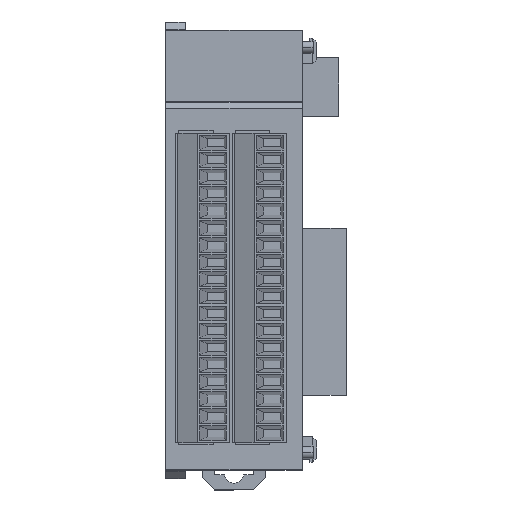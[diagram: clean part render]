
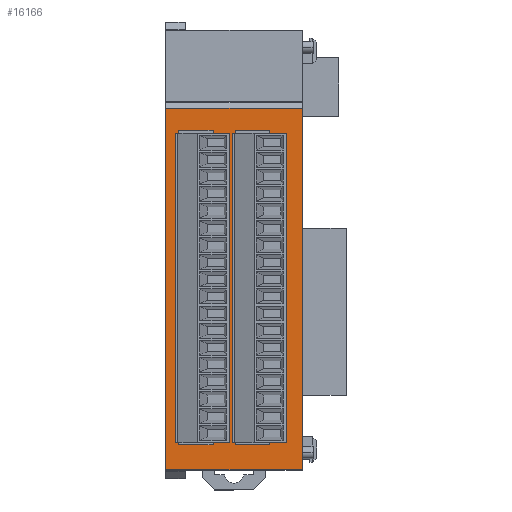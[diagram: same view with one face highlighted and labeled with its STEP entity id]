
A CAD part, top view. The second image highlights one B-rep face of the part: STEP entity #16166.
In plain terms, the highlighted planar face has unit normal (0, 0, 1).
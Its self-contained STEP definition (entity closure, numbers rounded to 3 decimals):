
#14625 = VERTEX_POINT ( 'NONE', #19419 ) ;
#14714 = ORIENTED_EDGE ( 'NONE', *, *, #16187, .T. ) ;
#14733 = EDGE_LOOP ( 'NONE', ( #16184, #22829, #16217, #16205 ) ) ;
#14746 = ORIENTED_EDGE ( 'NONE', *, *, #14754, .T. ) ;
#14754 = EDGE_CURVE ( 'NONE', #14625, #16139, #19585, .T. ) ;
#14893 = ORIENTED_EDGE ( 'NONE', *, *, #16137, .T. ) ;
#15019 = EDGE_LOOP ( 'NONE', ( #14893, #14746, #14714, #16177 ) ) ;
#16136 = ORIENTED_EDGE ( 'NONE', *, *, #16179, .F. ) ;
#16137 = EDGE_CURVE ( 'NONE', #16194, #14625, #19770, .T. ) ;
#16139 = VERTEX_POINT ( 'NONE', #19785 ) ;
#16140 = EDGE_CURVE ( 'NONE', #16163, #16156, #19771, .T. ) ;
#16146 = ORIENTED_EDGE ( 'NONE', *, *, #16140, .F. ) ;
#16151 = ORIENTED_EDGE ( 'NONE', *, *, #22480, .F. ) ;
#16155 = EDGE_CURVE ( 'NONE', #22484, #16157, #19819, .T. ) ;
#16156 = VERTEX_POINT ( 'NONE', #19820 ) ;
#16157 = VERTEX_POINT ( 'NONE', #19830 ) ;
#16163 = VERTEX_POINT ( 'NONE', #19825 ) ;
#16166 = ADVANCED_FACE ( 'NONE', ( #19800, #19867, #19865 ), #19811, .T. ) ;
#16170 = VERTEX_POINT ( 'NONE', #19860 ) ;
#16173 = ORIENTED_EDGE ( 'NONE', *, *, #16155, .F. ) ;
#16177 = ORIENTED_EDGE ( 'NONE', *, *, #16195, .T. ) ;
#16179 = EDGE_CURVE ( 'NONE', #16156, #22484, #19803, .T. ) ;
#16183 = EDGE_CURVE ( 'NONE', #16185, #16170, #19890, .T. ) ;
#16184 = ORIENTED_EDGE ( 'NONE', *, *, #16183, .F. ) ;
#16185 = VERTEX_POINT ( 'NONE', #19888 ) ;
#16187 = EDGE_CURVE ( 'NONE', #16139, #16196, #19897, .T. ) ;
#16194 = VERTEX_POINT ( 'NONE', #19881 ) ;
#16195 = EDGE_CURVE ( 'NONE', #16196, #16194, #19925, .T. ) ;
#16196 = VERTEX_POINT ( 'NONE', #19872 ) ;
#16204 = EDGE_CURVE ( 'NONE', #16218, #16219, #19907, .T. ) ;
#16205 = ORIENTED_EDGE ( 'NONE', *, *, #16210, .F. ) ;
#16210 = EDGE_CURVE ( 'NONE', #16170, #16218, #19901, .T. ) ;
#16216 = EDGE_CURVE ( 'NONE', #16219, #16185, #19962, .T. ) ;
#16217 = ORIENTED_EDGE ( 'NONE', *, *, #16204, .F. ) ;
#16218 = VERTEX_POINT ( 'NONE', #19944 ) ;
#16219 = VERTEX_POINT ( 'NONE', #19957 ) ;
#18809 = DIRECTION ( 'NONE',  ( -1., 0., 0. ) ) ;
#18812 = VECTOR ( 'NONE', #18809, 1000. ) ;
#19419 = CARTESIAN_POINT ( 'NONE',  ( 14., 29., 80. ) ) ;
#19581 = DIRECTION ( 'NONE',  ( -1., 0., 0. ) ) ;
#19582 = VECTOR ( 'NONE', #19581, 1000. ) ;
#19583 = CARTESIAN_POINT ( 'NONE',  ( -14., 29., 80. ) ) ;
#19585 = LINE ( 'NONE', #19583, #19582 ) ;
#19763 = DIRECTION ( 'NONE',  ( 0., 1., 0. ) ) ;
#19764 = CARTESIAN_POINT ( 'NONE',  ( -4.3, 24.5, 80. ) ) ;
#19767 = DIRECTION ( 'NONE',  ( 0., 1., 0. ) ) ;
#19768 = VECTOR ( 'NONE', #19767, 1000. ) ;
#19769 = CARTESIAN_POINT ( 'NONE',  ( 14., -45., 80. ) ) ;
#19770 = LINE ( 'NONE', #19769, #19768 ) ;
#19771 = LINE ( 'NONE', #19764, #19832 ) ;
#19785 = CARTESIAN_POINT ( 'NONE',  ( -14., 29., 80. ) ) ;
#19800 = FACE_BOUND ( 'NONE', #22477, .T. ) ;
#19801 = AXIS2_PLACEMENT_3D ( 'NONE', #19831, #19864, #19858 ) ;
#19803 = LINE ( 'NONE', #19841, #18812 ) ;
#19811 = PLANE ( 'NONE',  #19801 ) ;
#19816 = DIRECTION ( 'NONE',  ( 0., -1., 0. ) ) ;
#19817 = VECTOR ( 'NONE', #19816, 1000. ) ;
#19818 = CARTESIAN_POINT ( 'NONE',  ( -11.3, 24.5, 80. ) ) ;
#19819 = LINE ( 'NONE', #19818, #19817 ) ;
#19820 = CARTESIAN_POINT ( 'NONE',  ( -4.3, 24.5, 80. ) ) ;
#19825 = CARTESIAN_POINT ( 'NONE',  ( -4.3, -39.9, 80. ) ) ;
#19830 = CARTESIAN_POINT ( 'NONE',  ( -11.3, -39.9, 80. ) ) ;
#19831 = CARTESIAN_POINT ( 'NONE',  ( -14., 45., 80. ) ) ;
#19832 = VECTOR ( 'NONE', #19763, 1000. ) ;
#19841 = CARTESIAN_POINT ( 'NONE',  ( -11.3, 24.5, 80. ) ) ;
#19858 = DIRECTION ( 'NONE',  ( 1., 0., 0. ) ) ;
#19860 = CARTESIAN_POINT ( 'NONE',  ( 7.3, -39.9, 80. ) ) ;
#19864 = DIRECTION ( 'NONE',  ( 0., 0., 1. ) ) ;
#19865 = FACE_BOUND ( 'NONE', #14733, .T. ) ;
#19867 = FACE_OUTER_BOUND ( 'NONE', #15019, .T. ) ;
#19872 = CARTESIAN_POINT ( 'NONE',  ( -14., -45., 80. ) ) ;
#19879 = DIRECTION ( 'NONE',  ( 0., -1., 0. ) ) ;
#19880 = VECTOR ( 'NONE', #19879, 1000. ) ;
#19881 = CARTESIAN_POINT ( 'NONE',  ( 14., -45., 80. ) ) ;
#19884 = DIRECTION ( 'NONE',  ( 1., 0., 0. ) ) ;
#19885 = VECTOR ( 'NONE', #19884, 1000. ) ;
#19888 = CARTESIAN_POINT ( 'NONE',  ( 0.3, -39.9, 80. ) ) ;
#19889 = CARTESIAN_POINT ( 'NONE',  ( 0.3, -39.9, 80. ) ) ;
#19890 = LINE ( 'NONE', #19889, #19885 ) ;
#19896 = CARTESIAN_POINT ( 'NONE',  ( -14., -45., 80. ) ) ;
#19897 = LINE ( 'NONE', #19896, #19880 ) ;
#19901 = LINE ( 'NONE', #19956, #19955 ) ;
#19903 = DIRECTION ( 'NONE',  ( -1., 0., 0. ) ) ;
#19904 = VECTOR ( 'NONE', #19903, 1000. ) ;
#19905 = CARTESIAN_POINT ( 'NONE',  ( 0.3, 24.5, 80. ) ) ;
#19907 = LINE ( 'NONE', #19905, #19904 ) ;
#19922 = DIRECTION ( 'NONE',  ( 1., 0., 0. ) ) ;
#19923 = VECTOR ( 'NONE', #19922, 1000. ) ;
#19924 = CARTESIAN_POINT ( 'NONE',  ( 14., -45., 80. ) ) ;
#19925 = LINE ( 'NONE', #19924, #19923 ) ;
#19941 = DIRECTION ( 'NONE',  ( 0., -1., 0. ) ) ;
#19942 = VECTOR ( 'NONE', #19941, 1000. ) ;
#19944 = CARTESIAN_POINT ( 'NONE',  ( 7.3, 24.5, 80. ) ) ;
#19954 = DIRECTION ( 'NONE',  ( 0., 1., 0. ) ) ;
#19955 = VECTOR ( 'NONE', #19954, 1000. ) ;
#19956 = CARTESIAN_POINT ( 'NONE',  ( 7.3, 24.5, 80. ) ) ;
#19957 = CARTESIAN_POINT ( 'NONE',  ( 0.3, 24.5, 80. ) ) ;
#19961 = CARTESIAN_POINT ( 'NONE',  ( 0.3, 24.5, 80. ) ) ;
#19962 = LINE ( 'NONE', #19961, #19942 ) ;
#20424 = CARTESIAN_POINT ( 'NONE',  ( -11.3, 24.5, 80. ) ) ;
#20429 = DIRECTION ( 'NONE',  ( 1., 0., 0. ) ) ;
#20430 = VECTOR ( 'NONE', #20429, 1000. ) ;
#20431 = CARTESIAN_POINT ( 'NONE',  ( -11.3, -39.9, 80. ) ) ;
#20432 = LINE ( 'NONE', #20431, #20430 ) ;
#22477 = EDGE_LOOP ( 'NONE', ( #16151, #16173, #16136, #16146 ) ) ;
#22480 = EDGE_CURVE ( 'NONE', #16157, #16163, #20432, .T. ) ;
#22484 = VERTEX_POINT ( 'NONE', #20424 ) ;
#22829 = ORIENTED_EDGE ( 'NONE', *, *, #16216, .F. ) ;
